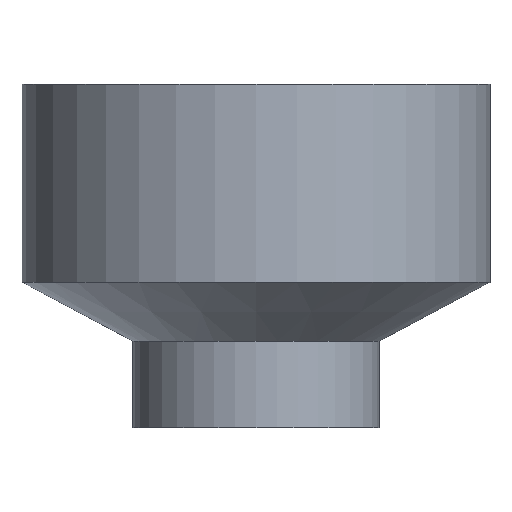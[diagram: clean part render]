
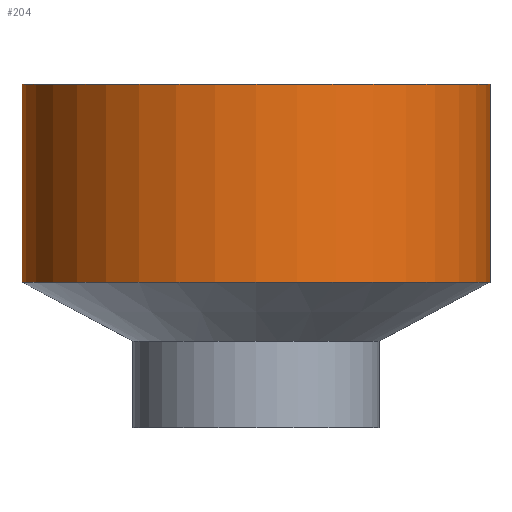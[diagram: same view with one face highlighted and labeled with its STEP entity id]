
A CAD part, front view. The second image highlights one B-rep face of the part: STEP entity #204.
In plain terms, the highlighted cylindrical face has radius 41 mm (diameter 82 mm), a partial arc.
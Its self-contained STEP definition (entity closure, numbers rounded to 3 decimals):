
#7 = DIRECTION ( 'NONE',  ( 0., 0., -1. ) ) ;
#10 = CYLINDRICAL_SURFACE ( 'NONE', #279, 41. ) ;
#14 = ORIENTED_EDGE ( 'NONE', *, *, #32, .F. ) ;
#22 = LINE ( 'NONE', #390, #291 ) ;
#32 = EDGE_CURVE ( 'NONE', #386, #490, #437, .T. ) ;
#54 = FACE_OUTER_BOUND ( 'NONE', #296, .T. ) ;
#57 = DIRECTION ( 'NONE',  ( 1., 0., 0. ) ) ;
#72 = ORIENTED_EDGE ( 'NONE', *, *, #389, .F. ) ;
#75 = ORIENTED_EDGE ( 'NONE', *, *, #409, .F. ) ;
#92 = CARTESIAN_POINT ( 'NONE',  ( -41., 0., 25.5 ) ) ;
#101 = DIRECTION ( 'NONE',  ( -1., 0., 0. ) ) ;
#115 = CARTESIAN_POINT ( 'NONE',  ( 0., 0., 60.2 ) ) ;
#143 = CARTESIAN_POINT ( 'NONE',  ( 0., 0., 25.5 ) ) ;
#179 = CARTESIAN_POINT ( 'NONE',  ( 0., 0., 60.2 ) ) ;
#195 = VERTEX_POINT ( 'NONE', #92 ) ;
#204 = ADVANCED_FACE ( 'NONE', ( #54 ), #10, .T. ) ;
#230 = ORIENTED_EDGE ( 'NONE', *, *, #338, .T. ) ;
#240 = CARTESIAN_POINT ( 'NONE',  ( 41., 0., 60.2 ) ) ;
#241 = AXIS2_PLACEMENT_3D ( 'NONE', #115, #392, #57 ) ;
#261 = DIRECTION ( 'NONE',  ( -1., 0., 0. ) ) ;
#279 = AXIS2_PLACEMENT_3D ( 'NONE', #179, #7, #261 ) ;
#291 = VECTOR ( 'NONE', #465, 1000. ) ;
#296 = EDGE_LOOP ( 'NONE', ( #14, #72, #230, #75 ) ) ;
#329 = DIRECTION ( 'NONE',  ( 0., 0., -1. ) ) ;
#338 = EDGE_CURVE ( 'NONE', #474, #195, #22, .T. ) ;
#368 = CARTESIAN_POINT ( 'NONE',  ( -41., 0., 60.2 ) ) ;
#382 = CIRCLE ( 'NONE', #454, 41. ) ;
#386 = VERTEX_POINT ( 'NONE', #476 ) ;
#389 = EDGE_CURVE ( 'NONE', #474, #386, #405, .T. ) ;
#390 = CARTESIAN_POINT ( 'NONE',  ( -41., 0., 60.2 ) ) ;
#392 = DIRECTION ( 'NONE',  ( 0., 0., 1. ) ) ;
#405 = CIRCLE ( 'NONE', #241, 41. ) ;
#409 = EDGE_CURVE ( 'NONE', #490, #195, #382, .T. ) ;
#437 = LINE ( 'NONE', #240, #475 ) ;
#454 = AXIS2_PLACEMENT_3D ( 'NONE', #143, #461, #101 ) ;
#461 = DIRECTION ( 'NONE',  ( 0., 0., -1. ) ) ;
#465 = DIRECTION ( 'NONE',  ( 0., 0., -1. ) ) ;
#474 = VERTEX_POINT ( 'NONE', #368 ) ;
#475 = VECTOR ( 'NONE', #329, 1000. ) ;
#476 = CARTESIAN_POINT ( 'NONE',  ( 41., 0., 60.2 ) ) ;
#483 = CARTESIAN_POINT ( 'NONE',  ( 41., 0., 25.5 ) ) ;
#490 = VERTEX_POINT ( 'NONE', #483 ) ;
